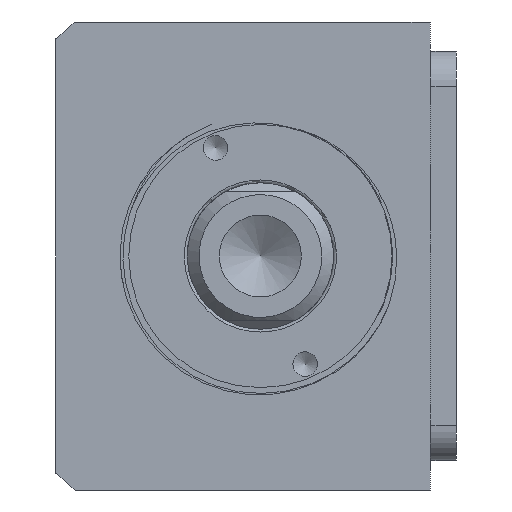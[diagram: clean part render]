
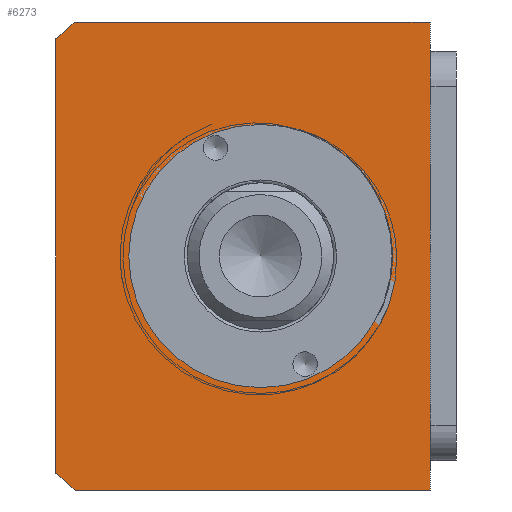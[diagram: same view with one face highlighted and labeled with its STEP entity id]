
A CAD part, front view. The second image highlights one B-rep face of the part: STEP entity #6273.
In plain terms, the highlighted planar face has unit normal (0, -1, 0).
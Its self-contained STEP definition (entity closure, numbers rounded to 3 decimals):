
#3422=PLANE('',#12691);
#3783=LINE('',#15383,#4788);
#3795=LINE('',#15572,#4800);
#3819=LINE('',#15625,#4824);
#3826=LINE('',#15645,#4831);
#4788=VECTOR('',#13256,1.);
#4800=VECTOR('',#13334,1.);
#4824=VECTOR('',#13364,1.);
#4831=VECTOR('',#13381,1.);
#6273=ADVANCED_FACE('',(#6847,#6848),#3422,.T.);
#6847=FACE_BOUND('',#7028,.T.);
#6848=FACE_BOUND('',#7029,.T.);
#7028=EDGE_LOOP('',(#7743));
#7029=EDGE_LOOP('',(#7744,#7745,#7746,#7747,#7748,#7749));
#7743=ORIENTED_EDGE('',*,*,#11245,.F.);
#7744=ORIENTED_EDGE('',*,*,#11248,.T.);
#7745=ORIENTED_EDGE('',*,*,#11283,.T.);
#7746=ORIENTED_EDGE('',*,*,#11274,.T.);
#7747=ORIENTED_EDGE('',*,*,#11284,.T.);
#7748=ORIENTED_EDGE('',*,*,#11213,.T.);
#7749=ORIENTED_EDGE('',*,*,#11285,.T.);
#10283=VERTEX_POINT('',#15382);
#10284=VERTEX_POINT('',#15384);
#10314=VERTEX_POINT('',#15565);
#10316=VERTEX_POINT('',#15570);
#10318=VERTEX_POINT('',#15573);
#10343=VERTEX_POINT('',#15624);
#10344=VERTEX_POINT('',#15626);
#11213=EDGE_CURVE('',#10284,#10283,#3783,.T.);
#11245=EDGE_CURVE('',#10314,#10314,#12534,.T.);
#11248=EDGE_CURVE('',#10318,#10316,#3795,.T.);
#11274=EDGE_CURVE('',#10344,#10343,#3819,.T.);
#11283=EDGE_CURVE('',#10316,#10344,#12540,.T.);
#11284=EDGE_CURVE('',#10343,#10284,#12541,.T.);
#11285=EDGE_CURVE('',#10283,#10318,#3826,.T.);
#12534=CIRCLE('',#12680,22.5);
#12540=CIRCLE('',#12689,51.);
#12541=CIRCLE('',#12690,51.);
#12680=AXIS2_PLACEMENT_3D('',#15564,#13327,#13328);
#12689=AXIS2_PLACEMENT_3D('',#15643,#13377,#13378);
#12690=AXIS2_PLACEMENT_3D('',#15644,#13379,#13380);
#12691=AXIS2_PLACEMENT_3D('',#15646,#13382,#13383);
#13256=DIRECTION('',(1.,0.,0.));
#13327=DIRECTION('',(0.,-1.,0.));
#13328=DIRECTION('',(0.,0.,-1.));
#13334=DIRECTION('',(-1.,0.,0.));
#13364=DIRECTION('',(0.,0.,-1.));
#13377=DIRECTION('',(0.,-1.,0.));
#13378=DIRECTION('',(0.,0.,-1.));
#13379=DIRECTION('',(0.,-1.,0.));
#13380=DIRECTION('',(0.,0.,-1.));
#13381=DIRECTION('',(0.,0.,1.));
#13382=DIRECTION('',(0.,-1.,0.));
#13383=DIRECTION('',(0.,0.,1.));
#15382=CARTESIAN_POINT('',(-83.731,14.512,-40.));
#15383=CARTESIAN_POINT('',(-83.731,14.512,-40.));
#15384=CARTESIAN_POINT('',(-144.37,14.512,-40.));
#15564=CARTESIAN_POINT('',(-112.731,14.512,0.));
#15565=CARTESIAN_POINT('',(-112.731,14.512,-22.5));
#15570=CARTESIAN_POINT('',(-144.37,14.512,40.));
#15572=CARTESIAN_POINT('',(-83.731,14.512,40.));
#15573=CARTESIAN_POINT('',(-83.731,14.512,40.));
#15624=CARTESIAN_POINT('',(-147.731,14.512,-37.094));
#15625=CARTESIAN_POINT('',(-147.731,14.512,40.));
#15626=CARTESIAN_POINT('',(-147.731,14.512,37.094));
#15643=CARTESIAN_POINT('',(-112.731,14.512,0.));
#15644=CARTESIAN_POINT('',(-112.731,14.512,0.));
#15645=CARTESIAN_POINT('',(-83.731,14.512,40.));
#15646=CARTESIAN_POINT('',(-72.225,14.512,0.));
